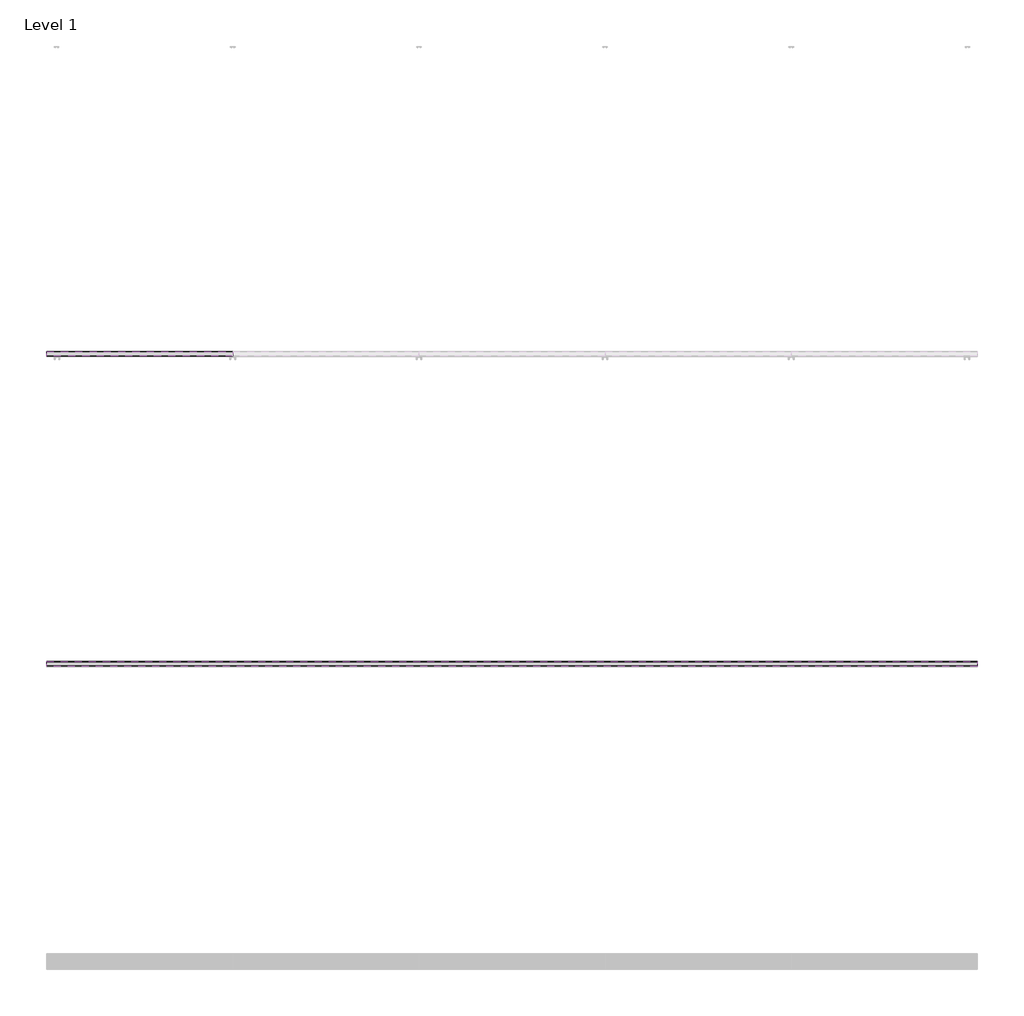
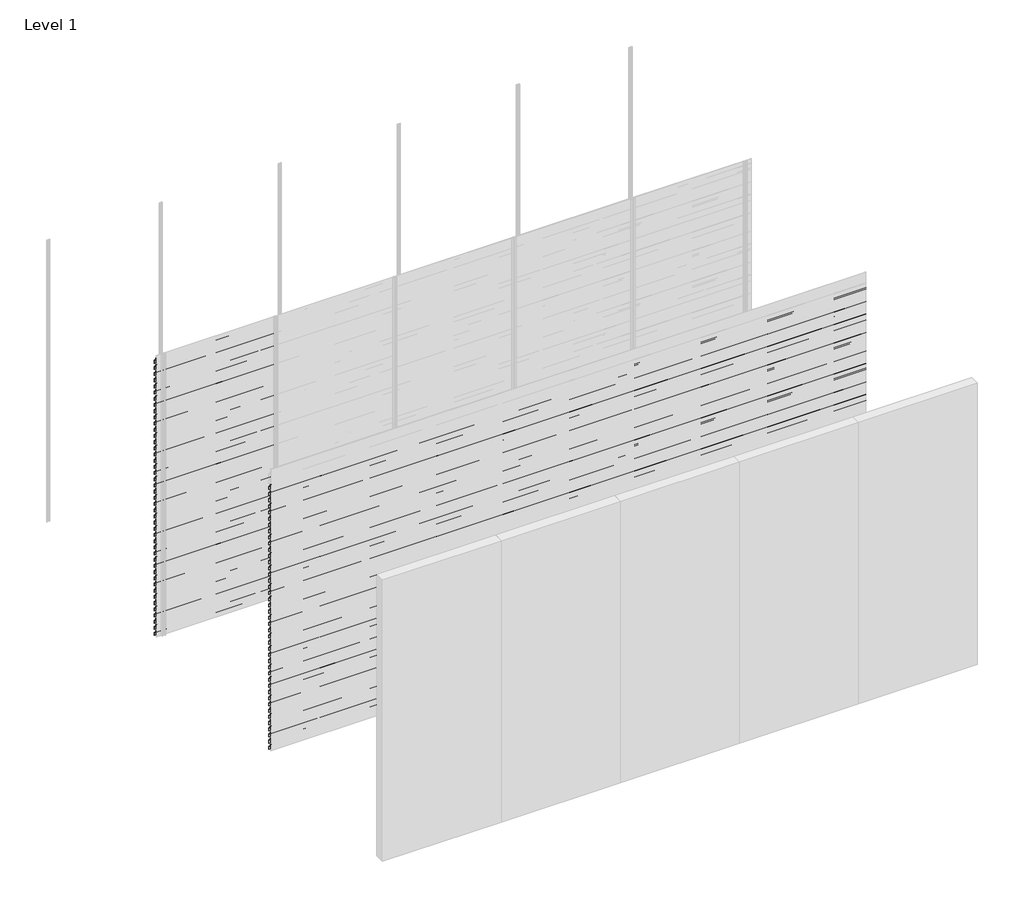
# One storey, part 28 of 33: 88 proxies.
"""IFC4 building model written with IfcOpenShell, lengths in millimetres."""

from ifc_helpers import new_model, si_unit, frame, origin, place, context, project, spatial, polyline, outline, extrude, element, save

model = new_model("IFC4")

# Units and contexts
model_context = context("Model", 3, world=origin())
ifc_project = project(units=[si_unit("LENGTHUNIT", "METRE", prefix="MILLI")], contexts=[model_context])

# Site, building, storey
site = spatial("IfcSite", under=ifc_project)
building = spatial("IfcBuilding", under=site)
storey = spatial("IfcBuildingStorey", under=building, Name="Level 1", Elevation=0.0)

# Proxies
placement = place(None, origin())
element("IfcBuildingElementProxy", 1, Name="Wall Sweeps", at=placement, inside=storey, context=model_context, shape_type="SweptSolid", body=[
    extrude(outline(polyline([(-5967.0, 2930.0), (-5967.0, 2897.0), (-5968.25, 2897.7216933), (-5968.25, 2929.2872415), (-5998.0, 2950.0588647), (-5998.0, 2970.0), (-5996.75, 2970.0), (-5996.75, 2950.7716232), (-5967.0, 2930.0)])), frame((0.0, 0.0, 0.0), z_axis=(1.0, 0.0, 0.0), x_axis=(0.0, 1.0, 0.0)), (0.0, 0.0, 1.0), 1200.0),
])
element("IfcBuildingElementProxy", 2, Name="Wall Sweeps", at=placement, inside=storey, context=model_context, shape_type="SweptSolid", body=[
    extrude(outline(polyline([(-5967.0, 2864.0), (-5967.0, 2831.0), (-5968.25, 2831.7216933), (-5968.25, 2863.2872415), (-5998.0, 2884.0588647), (-5998.0, 2904.0), (-5996.75, 2904.0), (-5996.75, 2884.7716232), (-5967.0, 2864.0)])), frame((0.0, 0.0, 0.0), z_axis=(1.0, 0.0, 0.0), x_axis=(0.0, 1.0, 0.0)), (0.0, 0.0, 1.0), 1200.0),
])
element("IfcBuildingElementProxy", 3, Name="Wall Sweeps", at=placement, inside=storey, context=model_context, shape_type="SweptSolid", body=[
    extrude(outline(polyline([(-5967.0, 2798.0), (-5967.0, 2765.0), (-5968.25, 2765.7216933), (-5968.25, 2797.2872415), (-5998.0, 2818.0588647), (-5998.0, 2838.0), (-5996.75, 2838.0), (-5996.75, 2818.7716232), (-5967.0, 2798.0)])), frame((0.0, 0.0, 0.0), z_axis=(1.0, 0.0, 0.0), x_axis=(0.0, 1.0, 0.0)), (0.0, 0.0, 1.0), 1200.0),
])
element("IfcBuildingElementProxy", 4, Name="Wall Sweeps", at=placement, inside=storey, context=model_context, shape_type="SweptSolid", body=[
    extrude(outline(polyline([(-5967.0, 2732.0), (-5967.0, 2699.0), (-5968.25, 2699.7216933), (-5968.25, 2731.2872415), (-5998.0, 2752.0588647), (-5998.0, 2772.0), (-5996.75, 2772.0), (-5996.75, 2752.7716232), (-5967.0, 2732.0)])), frame((0.0, 0.0, 0.0), z_axis=(1.0, 0.0, 0.0), x_axis=(0.0, 1.0, 0.0)), (0.0, 0.0, 1.0), 1200.0),
])
element("IfcBuildingElementProxy", 5, Name="Wall Sweeps", at=placement, inside=storey, context=model_context, shape_type="SweptSolid", body=[
    extrude(outline(polyline([(-5967.0, 2666.0), (-5967.0, 2633.0), (-5968.25, 2633.7216933), (-5968.25, 2665.2872415), (-5998.0, 2686.0588647), (-5998.0, 2706.0), (-5996.75, 2706.0), (-5996.75, 2686.7716232), (-5967.0, 2666.0)])), frame((0.0, 0.0, 0.0), z_axis=(1.0, 0.0, 0.0), x_axis=(0.0, 1.0, 0.0)), (0.0, 0.0, 1.0), 1200.0),
])
element("IfcBuildingElementProxy", 6, Name="Wall Sweeps", at=placement, inside=storey, context=model_context, shape_type="SweptSolid", body=[
    extrude(outline(polyline([(-5967.0, 2600.0), (-5967.0, 2567.0), (-5968.25, 2567.7216933), (-5968.25, 2599.2872415), (-5998.0, 2620.0588647), (-5998.0, 2640.0), (-5996.75, 2640.0), (-5996.75, 2620.7716232), (-5967.0, 2600.0)])), frame((0.0, 0.0, 0.0), z_axis=(1.0, 0.0, 0.0), x_axis=(0.0, 1.0, 0.0)), (0.0, 0.0, 1.0), 1200.0),
])
element("IfcBuildingElementProxy", 7, Name="Wall Sweeps", at=placement, inside=storey, context=model_context, shape_type="SweptSolid", body=[
    extrude(outline(polyline([(-5967.0, 2534.0), (-5967.0, 2501.0), (-5968.25, 2501.7216933), (-5968.25, 2533.2872415), (-5998.0, 2554.0588647), (-5998.0, 2574.0), (-5996.75, 2574.0), (-5996.75, 2554.7716232), (-5967.0, 2534.0)])), frame((0.0, 0.0, 0.0), z_axis=(1.0, 0.0, 0.0), x_axis=(0.0, 1.0, 0.0)), (0.0, 0.0, 1.0), 1200.0),
])
element("IfcBuildingElementProxy", 8, Name="Wall Sweeps", at=placement, inside=storey, context=model_context, shape_type="SweptSolid", body=[
    extrude(outline(polyline([(-5967.0, 2468.0), (-5967.0, 2435.0), (-5968.25, 2435.7216933), (-5968.25, 2467.2872415), (-5998.0, 2488.0588647), (-5998.0, 2508.0), (-5996.75, 2508.0), (-5996.75, 2488.7716232), (-5967.0, 2468.0)])), frame((0.0, 0.0, 0.0), z_axis=(1.0, 0.0, 0.0), x_axis=(0.0, 1.0, 0.0)), (0.0, 0.0, 1.0), 1200.0),
])
element("IfcBuildingElementProxy", 9, Name="Wall Sweeps", at=placement, inside=storey, context=model_context, shape_type="SweptSolid", body=[
    extrude(outline(polyline([(-5967.0, 2402.0), (-5967.0, 2369.0), (-5968.25, 2369.7216933), (-5968.25, 2401.2872415), (-5998.0, 2422.0588647), (-5998.0, 2442.0), (-5996.75, 2442.0), (-5996.75, 2422.7716232), (-5967.0, 2402.0)])), frame((0.0, 0.0, 0.0), z_axis=(1.0, 0.0, 0.0), x_axis=(0.0, 1.0, 0.0)), (0.0, 0.0, 1.0), 1200.0),
])
element("IfcBuildingElementProxy", 10, Name="Wall Sweeps", at=placement, inside=storey, context=model_context, shape_type="SweptSolid", body=[
    extrude(outline(polyline([(-5967.0, 2336.0), (-5967.0, 2303.0), (-5968.25, 2303.7216933), (-5968.25, 2335.2872415), (-5998.0, 2356.0588647), (-5998.0, 2376.0), (-5996.75, 2376.0), (-5996.75, 2356.7716232), (-5967.0, 2336.0)])), frame((0.0, 0.0, 0.0), z_axis=(1.0, 0.0, 0.0), x_axis=(0.0, 1.0, 0.0)), (0.0, 0.0, 1.0), 1200.0),
])
element("IfcBuildingElementProxy", 11, Name="Wall Sweeps", at=placement, inside=storey, context=model_context, shape_type="SweptSolid", body=[
    extrude(outline(polyline([(-5967.0, 2270.0), (-5967.0, 2237.0), (-5968.25, 2237.7216933), (-5968.25, 2269.2872415), (-5998.0, 2290.0588647), (-5998.0, 2310.0), (-5996.75, 2310.0), (-5996.75, 2290.7716232), (-5967.0, 2270.0)])), frame((0.0, 0.0, 0.0), z_axis=(1.0, 0.0, 0.0), x_axis=(0.0, 1.0, 0.0)), (0.0, 0.0, 1.0), 1200.0),
])
element("IfcBuildingElementProxy", 12, Name="Wall Sweeps", at=placement, inside=storey, context=model_context, shape_type="SweptSolid", body=[
    extrude(outline(polyline([(-5967.0, 2204.0), (-5967.0, 2171.0), (-5968.25, 2171.7216933), (-5968.25, 2203.2872415), (-5998.0, 2224.0588647), (-5998.0, 2244.0), (-5996.75, 2244.0), (-5996.75, 2224.7716232), (-5967.0, 2204.0)])), frame((0.0, 0.0, 0.0), z_axis=(1.0, 0.0, 0.0), x_axis=(0.0, 1.0, 0.0)), (0.0, 0.0, 1.0), 1200.0),
])
element("IfcBuildingElementProxy", 13, Name="Wall Sweeps", at=placement, inside=storey, context=model_context, shape_type="SweptSolid", body=[
    extrude(outline(polyline([(-5967.0, 2138.0), (-5967.0, 2105.0), (-5968.25, 2105.7216933), (-5968.25, 2137.2872415), (-5998.0, 2158.0588647), (-5998.0, 2178.0), (-5996.75, 2178.0), (-5996.75, 2158.7716232), (-5967.0, 2138.0)])), frame((0.0, 0.0, 0.0), z_axis=(1.0, 0.0, 0.0), x_axis=(0.0, 1.0, 0.0)), (0.0, 0.0, 1.0), 1200.0),
])
element("IfcBuildingElementProxy", 14, Name="Wall Sweeps", at=placement, inside=storey, context=model_context, shape_type="SweptSolid", body=[
    extrude(outline(polyline([(-5967.0, 2072.0), (-5967.0, 2039.0), (-5968.25, 2039.7216933), (-5968.25, 2071.2872415), (-5998.0, 2092.0588647), (-5998.0, 2112.0), (-5996.75, 2112.0), (-5996.75, 2092.7716232), (-5967.0, 2072.0)])), frame((0.0, 0.0, 0.0), z_axis=(1.0, 0.0, 0.0), x_axis=(0.0, 1.0, 0.0)), (0.0, 0.0, 1.0), 1200.0),
])
element("IfcBuildingElementProxy", 15, Name="Wall Sweeps", at=placement, inside=storey, context=model_context, shape_type="SweptSolid", body=[
    extrude(outline(polyline([(-5967.0, 2006.0), (-5967.0, 1973.0), (-5968.25, 1973.7216933), (-5968.25, 2005.2872415), (-5998.0, 2026.0588647), (-5998.0, 2046.0), (-5996.75, 2046.0), (-5996.75, 2026.7716232), (-5967.0, 2006.0)])), frame((0.0, 0.0, 0.0), z_axis=(1.0, 0.0, 0.0), x_axis=(0.0, 1.0, 0.0)), (0.0, 0.0, 1.0), 1200.0),
])
element("IfcBuildingElementProxy", 16, Name="Wall Sweeps", at=placement, inside=storey, context=model_context, shape_type="SweptSolid", body=[
    extrude(outline(polyline([(-5967.0, 1940.0), (-5967.0, 1907.0), (-5968.25, 1907.7216933), (-5968.25, 1939.2872415), (-5998.0, 1960.0588647), (-5998.0, 1980.0), (-5996.75, 1980.0), (-5996.75, 1960.7716232), (-5967.0, 1940.0)])), frame((0.0, 0.0, 0.0), z_axis=(1.0, 0.0, 0.0), x_axis=(0.0, 1.0, 0.0)), (0.0, 0.0, 1.0), 1200.0),
])
element("IfcBuildingElementProxy", 17, Name="Wall Sweeps", at=placement, inside=storey, context=model_context, shape_type="SweptSolid", body=[
    extrude(outline(polyline([(-5967.0, 1874.0), (-5967.0, 1841.0), (-5968.25, 1841.7216933), (-5968.25, 1873.2872415), (-5998.0, 1894.0588647), (-5998.0, 1914.0), (-5996.75, 1914.0), (-5996.75, 1894.7716232), (-5967.0, 1874.0)])), frame((0.0, 0.0, 0.0), z_axis=(1.0, 0.0, 0.0), x_axis=(0.0, 1.0, 0.0)), (0.0, 0.0, 1.0), 1200.0),
])
element("IfcBuildingElementProxy", 18, Name="Wall Sweeps", at=placement, inside=storey, context=model_context, shape_type="SweptSolid", body=[
    extrude(outline(polyline([(-5967.0, 1808.0), (-5967.0, 1775.0), (-5968.25, 1775.7216933), (-5968.25, 1807.2872415), (-5998.0, 1828.0588647), (-5998.0, 1848.0), (-5996.75, 1848.0), (-5996.75, 1828.7716232), (-5967.0, 1808.0)])), frame((0.0, 0.0, 0.0), z_axis=(1.0, 0.0, 0.0), x_axis=(0.0, 1.0, 0.0)), (0.0, 0.0, 1.0), 1200.0),
])
element("IfcBuildingElementProxy", 19, Name="Wall Sweeps", at=placement, inside=storey, context=model_context, shape_type="SweptSolid", body=[
    extrude(outline(polyline([(-5967.0, 1742.0), (-5967.0, 1709.0), (-5968.25, 1709.7216933), (-5968.25, 1741.2872415), (-5998.0, 1762.0588647), (-5998.0, 1782.0), (-5996.75, 1782.0), (-5996.75, 1762.7716232), (-5967.0, 1742.0)])), frame((0.0, 0.0, 0.0), z_axis=(1.0, 0.0, 0.0), x_axis=(0.0, 1.0, 0.0)), (0.0, 0.0, 1.0), 1200.0),
])
element("IfcBuildingElementProxy", 20, Name="Wall Sweeps", at=placement, inside=storey, context=model_context, shape_type="SweptSolid", body=[
    extrude(outline(polyline([(-5967.0, 1676.0), (-5967.0, 1643.0), (-5968.25, 1643.7216933), (-5968.25, 1675.2872415), (-5998.0, 1696.0588647), (-5998.0, 1716.0), (-5996.75, 1716.0), (-5996.75, 1696.7716232), (-5967.0, 1676.0)])), frame((0.0, 0.0, 0.0), z_axis=(1.0, 0.0, 0.0), x_axis=(0.0, 1.0, 0.0)), (0.0, 0.0, 1.0), 1200.0),
])
element("IfcBuildingElementProxy", 21, Name="Wall Sweeps", at=placement, inside=storey, context=model_context, shape_type="SweptSolid", body=[
    extrude(outline(polyline([(-5967.0, 1610.0), (-5967.0, 1577.0), (-5968.25, 1577.7216933), (-5968.25, 1609.2872415), (-5998.0, 1630.0588647), (-5998.0, 1650.0), (-5996.75, 1650.0), (-5996.75, 1630.7716232), (-5967.0, 1610.0)])), frame((0.0, 0.0, 0.0), z_axis=(1.0, 0.0, 0.0), x_axis=(0.0, 1.0, 0.0)), (0.0, 0.0, 1.0), 1200.0),
])
element("IfcBuildingElementProxy", 22, Name="Wall Sweeps", at=placement, inside=storey, context=model_context, shape_type="SweptSolid", body=[
    extrude(outline(polyline([(-5967.0, 1544.0), (-5967.0, 1511.0), (-5968.25, 1511.7216933), (-5968.25, 1543.2872415), (-5998.0, 1564.0588647), (-5998.0, 1584.0), (-5996.75, 1584.0), (-5996.75, 1564.7716232), (-5967.0, 1544.0)])), frame((0.0, 0.0, 0.0), z_axis=(1.0, 0.0, 0.0), x_axis=(0.0, 1.0, 0.0)), (0.0, 0.0, 1.0), 1200.0),
])
element("IfcBuildingElementProxy", 23, Name="Wall Sweeps", at=placement, inside=storey, context=model_context, shape_type="SweptSolid", body=[
    extrude(outline(polyline([(-5967.0, 1478.0), (-5967.0, 1445.0), (-5968.25, 1445.7216933), (-5968.25, 1477.2872415), (-5998.0, 1498.0588647), (-5998.0, 1518.0), (-5996.75, 1518.0), (-5996.75, 1498.7716232), (-5967.0, 1478.0)])), frame((0.0, 0.0, 0.0), z_axis=(1.0, 0.0, 0.0), x_axis=(0.0, 1.0, 0.0)), (0.0, 0.0, 1.0), 1200.0),
])
element("IfcBuildingElementProxy", 24, Name="Wall Sweeps", at=placement, inside=storey, context=model_context, shape_type="SweptSolid", body=[
    extrude(outline(polyline([(-5967.0, 1412.0), (-5967.0, 1379.0), (-5968.25, 1379.7216933), (-5968.25, 1411.2872415), (-5998.0, 1432.0588647), (-5998.0, 1452.0), (-5996.75, 1452.0), (-5996.75, 1432.7716232), (-5967.0, 1412.0)])), frame((0.0, 0.0, 0.0), z_axis=(1.0, 0.0, 0.0), x_axis=(0.0, 1.0, 0.0)), (0.0, 0.0, 1.0), 1200.0),
])
element("IfcBuildingElementProxy", 25, Name="Wall Sweeps", at=placement, inside=storey, context=model_context, shape_type="SweptSolid", body=[
    extrude(outline(polyline([(-5967.0, 1346.0), (-5967.0, 1313.0), (-5968.25, 1313.7216933), (-5968.25, 1345.2872415), (-5998.0, 1366.0588647), (-5998.0, 1386.0), (-5996.75, 1386.0), (-5996.75, 1366.7716232), (-5967.0, 1346.0)])), frame((0.0, 0.0, 0.0), z_axis=(1.0, 0.0, 0.0), x_axis=(0.0, 1.0, 0.0)), (0.0, 0.0, 1.0), 1200.0),
])
element("IfcBuildingElementProxy", 26, Name="Wall Sweeps", at=placement, inside=storey, context=model_context, shape_type="SweptSolid", body=[
    extrude(outline(polyline([(-5967.0, 1280.0), (-5967.0, 1247.0), (-5968.25, 1247.7216933), (-5968.25, 1279.2872415), (-5998.0, 1300.0588647), (-5998.0, 1320.0), (-5996.75, 1320.0), (-5996.75, 1300.7716232), (-5967.0, 1280.0)])), frame((0.0, 0.0, 0.0), z_axis=(1.0, 0.0, 0.0), x_axis=(0.0, 1.0, 0.0)), (0.0, 0.0, 1.0), 1200.0),
])
element("IfcBuildingElementProxy", 27, Name="Wall Sweeps", at=placement, inside=storey, context=model_context, shape_type="SweptSolid", body=[
    extrude(outline(polyline([(-5967.0, 1214.0), (-5967.0, 1181.0), (-5968.25, 1181.7216933), (-5968.25, 1213.2872415), (-5998.0, 1234.0588647), (-5998.0, 1254.0), (-5996.75, 1254.0), (-5996.75, 1234.7716232), (-5967.0, 1214.0)])), frame((0.0, 0.0, 0.0), z_axis=(1.0, 0.0, 0.0), x_axis=(0.0, 1.0, 0.0)), (0.0, 0.0, 1.0), 1200.0),
])
element("IfcBuildingElementProxy", 28, Name="Wall Sweeps", at=placement, inside=storey, context=model_context, shape_type="SweptSolid", body=[
    extrude(outline(polyline([(-5967.0, 1148.0), (-5967.0, 1115.0), (-5968.25, 1115.7216933), (-5968.25, 1147.2872415), (-5998.0, 1168.0588647), (-5998.0, 1188.0), (-5996.75, 1188.0), (-5996.75, 1168.7716232), (-5967.0, 1148.0)])), frame((0.0, 0.0, 0.0), z_axis=(1.0, 0.0, 0.0), x_axis=(0.0, 1.0, 0.0)), (0.0, 0.0, 1.0), 1200.0),
])
element("IfcBuildingElementProxy", 29, Name="Wall Sweeps", at=placement, inside=storey, context=model_context, shape_type="SweptSolid", body=[
    extrude(outline(polyline([(-5967.0, 1082.0), (-5967.0, 1049.0), (-5968.25, 1049.7216933), (-5968.25, 1081.2872415), (-5998.0, 1102.0588647), (-5998.0, 1122.0), (-5996.75, 1122.0), (-5996.75, 1102.7716232), (-5967.0, 1082.0)])), frame((0.0, 0.0, 0.0), z_axis=(1.0, 0.0, 0.0), x_axis=(0.0, 1.0, 0.0)), (0.0, 0.0, 1.0), 1200.0),
])
element("IfcBuildingElementProxy", 30, Name="Wall Sweeps", at=placement, inside=storey, context=model_context, shape_type="SweptSolid", body=[
    extrude(outline(polyline([(-5967.0, 1016.0), (-5967.0, 983.0), (-5968.25, 983.7216933), (-5968.25, 1015.2872415), (-5998.0, 1036.0588647), (-5998.0, 1056.0), (-5996.75, 1056.0), (-5996.75, 1036.7716232), (-5967.0, 1016.0)])), frame((0.0, 0.0, 0.0), z_axis=(1.0, 0.0, 0.0), x_axis=(0.0, 1.0, 0.0)), (0.0, 0.0, 1.0), 1200.0),
])
element("IfcBuildingElementProxy", 31, Name="Wall Sweeps", at=placement, inside=storey, context=model_context, shape_type="SweptSolid", body=[
    extrude(outline(polyline([(-5967.0, 950.0), (-5967.0, 917.0), (-5968.25, 917.7216933), (-5968.25, 949.2872415), (-5998.0, 970.0588647), (-5998.0, 990.0), (-5996.75, 990.0), (-5996.75, 970.7716232), (-5967.0, 950.0)])), frame((0.0, 0.0, 0.0), z_axis=(1.0, 0.0, 0.0), x_axis=(0.0, 1.0, 0.0)), (0.0, 0.0, 1.0), 1200.0),
])
element("IfcBuildingElementProxy", 32, Name="Wall Sweeps", at=placement, inside=storey, context=model_context, shape_type="SweptSolid", body=[
    extrude(outline(polyline([(-5967.0, 884.0), (-5967.0, 851.0), (-5968.25, 851.7216933), (-5968.25, 883.2872415), (-5998.0, 904.0588647), (-5998.0, 924.0), (-5996.75, 924.0), (-5996.75, 904.7716232), (-5967.0, 884.0)])), frame((0.0, 0.0, 0.0), z_axis=(1.0, 0.0, 0.0), x_axis=(0.0, 1.0, 0.0)), (0.0, 0.0, 1.0), 1200.0),
])
element("IfcBuildingElementProxy", 33, Name="Wall Sweeps", at=placement, inside=storey, context=model_context, shape_type="SweptSolid", body=[
    extrude(outline(polyline([(-5967.0, 818.0), (-5967.0, 785.0), (-5968.25, 785.7216933), (-5968.25, 817.2872415), (-5998.0, 838.0588647), (-5998.0, 858.0), (-5996.75, 858.0), (-5996.75, 838.7716232), (-5967.0, 818.0)])), frame((0.0, 0.0, 0.0), z_axis=(1.0, 0.0, 0.0), x_axis=(0.0, 1.0, 0.0)), (0.0, 0.0, 1.0), 1200.0),
])
element("IfcBuildingElementProxy", 34, Name="Wall Sweeps", at=placement, inside=storey, context=model_context, shape_type="SweptSolid", body=[
    extrude(outline(polyline([(-5967.0, 752.0), (-5967.0, 719.0), (-5968.25, 719.7216933), (-5968.25, 751.2872415), (-5998.0, 772.0588647), (-5998.0, 792.0), (-5996.75, 792.0), (-5996.75, 772.7716232), (-5967.0, 752.0)])), frame((0.0, 0.0, 0.0), z_axis=(1.0, 0.0, 0.0), x_axis=(0.0, 1.0, 0.0)), (0.0, 0.0, 1.0), 1200.0),
])
element("IfcBuildingElementProxy", 35, Name="Wall Sweeps", at=placement, inside=storey, context=model_context, shape_type="SweptSolid", body=[
    extrude(outline(polyline([(-5967.0, 686.0), (-5967.0, 653.0), (-5968.25, 653.7216933), (-5968.25, 685.2872415), (-5998.0, 706.0588647), (-5998.0, 726.0), (-5996.75, 726.0), (-5996.75, 706.7716232), (-5967.0, 686.0)])), frame((0.0, 0.0, 0.0), z_axis=(1.0, 0.0, 0.0), x_axis=(0.0, 1.0, 0.0)), (0.0, 0.0, 1.0), 1200.0),
])
element("IfcBuildingElementProxy", 36, Name="Wall Sweeps", at=placement, inside=storey, context=model_context, shape_type="SweptSolid", body=[
    extrude(outline(polyline([(-5967.0, 620.0), (-5967.0, 587.0), (-5968.25, 587.7216933), (-5968.25, 619.2872415), (-5998.0, 640.0588647), (-5998.0, 660.0), (-5996.75, 660.0), (-5996.75, 640.7716232), (-5967.0, 620.0)])), frame((0.0, 0.0, 0.0), z_axis=(1.0, 0.0, 0.0), x_axis=(0.0, 1.0, 0.0)), (0.0, 0.0, 1.0), 1200.0),
])
element("IfcBuildingElementProxy", 37, Name="Wall Sweeps", at=placement, inside=storey, context=model_context, shape_type="SweptSolid", body=[
    extrude(outline(polyline([(-5967.0, 554.0), (-5967.0, 521.0), (-5968.25, 521.7216933), (-5968.25, 553.2872415), (-5998.0, 574.0588647), (-5998.0, 594.0), (-5996.75, 594.0), (-5996.75, 574.7716232), (-5967.0, 554.0)])), frame((0.0, 0.0, 0.0), z_axis=(1.0, 0.0, 0.0), x_axis=(0.0, 1.0, 0.0)), (0.0, 0.0, 1.0), 1200.0),
])
element("IfcBuildingElementProxy", 38, Name="Wall Sweeps", at=placement, inside=storey, context=model_context, shape_type="SweptSolid", body=[
    extrude(outline(polyline([(-5967.0, 488.0), (-5967.0, 455.0), (-5968.25, 455.7216933), (-5968.25, 487.2872415), (-5998.0, 508.0588647), (-5998.0, 528.0), (-5996.75, 528.0), (-5996.75, 508.7716232), (-5967.0, 488.0)])), frame((0.0, 0.0, 0.0), z_axis=(1.0, 0.0, 0.0), x_axis=(0.0, 1.0, 0.0)), (0.0, 0.0, 1.0), 1200.0),
])
element("IfcBuildingElementProxy", 39, Name="Wall Sweeps", at=placement, inside=storey, context=model_context, shape_type="SweptSolid", body=[
    extrude(outline(polyline([(-5967.0, 422.0), (-5967.0, 389.0), (-5968.25, 389.7216933), (-5968.25, 421.2872415), (-5998.0, 442.0588647), (-5998.0, 462.0), (-5996.75, 462.0), (-5996.75, 442.7716232), (-5967.0, 422.0)])), frame((0.0, 0.0, 0.0), z_axis=(1.0, 0.0, 0.0), x_axis=(0.0, 1.0, 0.0)), (0.0, 0.0, 1.0), 1200.0),
])
element("IfcBuildingElementProxy", 40, Name="Wall Sweeps", at=placement, inside=storey, context=model_context, shape_type="SweptSolid", body=[
    extrude(outline(polyline([(-5967.0, 356.0), (-5967.0, 323.0), (-5968.25, 323.7216933), (-5968.25, 355.2872415), (-5998.0, 376.0588647), (-5998.0, 396.0), (-5996.75, 396.0), (-5996.75, 376.7716232), (-5967.0, 356.0)])), frame((0.0, 0.0, 0.0), z_axis=(1.0, 0.0, 0.0), x_axis=(0.0, 1.0, 0.0)), (0.0, 0.0, 1.0), 1200.0),
])
element("IfcBuildingElementProxy", 41, Name="Wall Sweeps", at=placement, inside=storey, context=model_context, shape_type="SweptSolid", body=[
    extrude(outline(polyline([(-5967.0, 290.0), (-5967.0, 257.0), (-5968.25, 257.7216933), (-5968.25, 289.2872415), (-5998.0, 310.0588647), (-5998.0, 330.0), (-5996.75, 330.0), (-5996.75, 310.7716232), (-5967.0, 290.0)])), frame((0.0, 0.0, 0.0), z_axis=(1.0, 0.0, 0.0), x_axis=(0.0, 1.0, 0.0)), (0.0, 0.0, 1.0), 1200.0),
])
element("IfcBuildingElementProxy", 42, Name="Wall Sweeps", at=placement, inside=storey, context=model_context, shape_type="SweptSolid", body=[
    extrude(outline(polyline([(-5967.0, 224.0), (-5967.0, 191.0), (-5968.25, 191.7216933), (-5968.25, 223.2872415), (-5998.0, 244.0588647), (-5998.0, 264.0), (-5996.75, 264.0), (-5996.75, 244.7716232), (-5967.0, 224.0)])), frame((0.0, 0.0, 0.0), z_axis=(1.0, 0.0, 0.0), x_axis=(0.0, 1.0, 0.0)), (0.0, 0.0, 1.0), 1200.0),
])
element("IfcBuildingElementProxy", 43, Name="Wall Sweeps", at=placement, inside=storey, context=model_context, shape_type="SweptSolid", body=[
    extrude(outline(polyline([(-5967.0, 158.0), (-5967.0, 125.0), (-5968.25, 125.7216933), (-5968.25, 157.2872415), (-5998.0, 178.0588647), (-5998.0, 198.0), (-5996.75, 198.0), (-5996.75, 178.7716232), (-5967.0, 158.0)])), frame((0.0, 0.0, 0.0), z_axis=(1.0, 0.0, 0.0), x_axis=(0.0, 1.0, 0.0)), (0.0, 0.0, 1.0), 1200.0),
])
element("IfcBuildingElementProxy", 44, Name="Wall Sweeps", at=placement, inside=storey, context=model_context, shape_type="SweptSolid", body=[
    extrude(outline(polyline([(-5967.0, 92.0), (-5967.0, 59.0), (-5968.25, 59.7216933), (-5968.25, 91.2872415), (-5998.0, 112.0588647), (-5998.0, 132.0), (-5996.75, 132.0), (-5996.75, 112.7716232), (-5967.0, 92.0)])), frame((0.0, 0.0, 0.0), z_axis=(1.0, 0.0, 0.0), x_axis=(0.0, 1.0, 0.0)), (0.0, 0.0, 1.0), 1200.0),
])
element("IfcBuildingElementProxy", 45, Name="Wall Sweeps", at=placement, inside=storey, context=model_context, shape_type="SweptSolid", body=[
    extrude(outline(polyline([(-5967.0, 26.0), (-5967.0, -7.0), (-5968.25, -6.2783067), (-5968.25, 25.2872415), (-5998.0, 46.0588647), (-5998.0, 66.0), (-5996.75, 66.0), (-5996.75, 46.7716232), (-5967.0, 26.0)])), frame((0.0, 0.0, 0.0), z_axis=(1.0, 0.0, 0.0), x_axis=(0.0, 1.0, 0.0)), (0.0, 0.0, 1.0), 1200.0),
])
element("IfcBuildingElementProxy", 46, Name="Wall Sweeps", at=placement, inside=storey, context=model_context, shape_type="SweptSolid", body=[
    extrude(outline(polyline([(-7967.0, 2798.0), (-7967.0, 2765.0), (-7968.25, 2765.7216933), (-7968.25, 2797.2872415), (-7998.0, 2818.0588647), (-7998.0, 2838.0), (-7996.75, 2838.0), (-7996.75, 2818.7716232), (-7967.0, 2798.0)])), frame((0.0, 0.0, 0.0), z_axis=(1.0, 0.0, 0.0), x_axis=(0.0, 1.0, 0.0)), (0.0, 0.0, 1.0), 6000.0),
])
element("IfcBuildingElementProxy", 47, Name="Wall Sweeps", at=placement, inside=storey, context=model_context, shape_type="SweptSolid", body=[
    extrude(outline(polyline([(-7967.0, 2732.0), (-7967.0, 2699.0), (-7968.25, 2699.7216933), (-7968.25, 2731.2872415), (-7998.0, 2752.0588647), (-7998.0, 2772.0), (-7996.75, 2772.0), (-7996.75, 2752.7716232), (-7967.0, 2732.0)])), frame((0.0, 0.0, 0.0), z_axis=(1.0, 0.0, 0.0), x_axis=(0.0, 1.0, 0.0)), (0.0, 0.0, 1.0), 6000.0),
])
element("IfcBuildingElementProxy", 48, Name="Wall Sweeps", at=placement, inside=storey, context=model_context, shape_type="SweptSolid", body=[
    extrude(outline(polyline([(-7967.0, 2666.0), (-7967.0, 2633.0), (-7968.25, 2633.7216933), (-7968.25, 2665.2872415), (-7998.0, 2686.0588647), (-7998.0, 2706.0), (-7996.75, 2706.0), (-7996.75, 2686.7716232), (-7967.0, 2666.0)])), frame((0.0, 0.0, 0.0), z_axis=(1.0, 0.0, 0.0), x_axis=(0.0, 1.0, 0.0)), (0.0, 0.0, 1.0), 6000.0),
])
element("IfcBuildingElementProxy", 49, Name="Wall Sweeps", at=placement, inside=storey, context=model_context, shape_type="SweptSolid", body=[
    extrude(outline(polyline([(-7967.0, 2600.0), (-7967.0, 2567.0), (-7968.25, 2567.7216933), (-7968.25, 2599.2872415), (-7998.0, 2620.0588647), (-7998.0, 2640.0), (-7996.75, 2640.0), (-7996.75, 2620.7716232), (-7967.0, 2600.0)])), frame((0.0, 0.0, 0.0), z_axis=(1.0, 0.0, 0.0), x_axis=(0.0, 1.0, 0.0)), (0.0, 0.0, 1.0), 6000.0),
])
element("IfcBuildingElementProxy", 50, Name="Wall Sweeps", at=placement, inside=storey, context=model_context, shape_type="SweptSolid", body=[
    extrude(outline(polyline([(-7967.0, 2534.0), (-7967.0, 2501.0), (-7968.25, 2501.7216933), (-7968.25, 2533.2872415), (-7998.0, 2554.0588647), (-7998.0, 2574.0), (-7996.75, 2574.0), (-7996.75, 2554.7716232), (-7967.0, 2534.0)])), frame((0.0, 0.0, 0.0), z_axis=(1.0, 0.0, 0.0), x_axis=(0.0, 1.0, 0.0)), (0.0, 0.0, 1.0), 6000.0),
])
element("IfcBuildingElementProxy", 51, Name="Wall Sweeps", at=placement, inside=storey, context=model_context, shape_type="SweptSolid", body=[
    extrude(outline(polyline([(-7967.0, 2468.0), (-7967.0, 2435.0), (-7968.25, 2435.7216933), (-7968.25, 2467.2872415), (-7998.0, 2488.0588647), (-7998.0, 2508.0), (-7996.75, 2508.0), (-7996.75, 2488.7716232), (-7967.0, 2468.0)])), frame((0.0, 0.0, 0.0), z_axis=(1.0, 0.0, 0.0), x_axis=(0.0, 1.0, 0.0)), (0.0, 0.0, 1.0), 6000.0),
])
element("IfcBuildingElementProxy", 52, Name="Wall Sweeps", at=placement, inside=storey, context=model_context, shape_type="SweptSolid", body=[
    extrude(outline(polyline([(-7967.0, 2402.0), (-7967.0, 2369.0), (-7968.25, 2369.7216933), (-7968.25, 2401.2872415), (-7998.0, 2422.0588647), (-7998.0, 2442.0), (-7996.75, 2442.0), (-7996.75, 2422.7716232), (-7967.0, 2402.0)])), frame((0.0, 0.0, 0.0), z_axis=(1.0, 0.0, 0.0), x_axis=(0.0, 1.0, 0.0)), (0.0, 0.0, 1.0), 6000.0),
])
element("IfcBuildingElementProxy", 53, Name="Wall Sweeps", at=placement, inside=storey, context=model_context, shape_type="SweptSolid", body=[
    extrude(outline(polyline([(-7967.0, 2336.0), (-7967.0, 2303.0), (-7968.25, 2303.7216933), (-7968.25, 2335.2872415), (-7998.0, 2356.0588647), (-7998.0, 2376.0), (-7996.75, 2376.0), (-7996.75, 2356.7716232), (-7967.0, 2336.0)])), frame((0.0, 0.0, 0.0), z_axis=(1.0, 0.0, 0.0), x_axis=(0.0, 1.0, 0.0)), (0.0, 0.0, 1.0), 6000.0),
])
element("IfcBuildingElementProxy", 54, Name="Wall Sweeps", at=placement, inside=storey, context=model_context, shape_type="SweptSolid", body=[
    extrude(outline(polyline([(-7967.0, 2270.0), (-7967.0, 2237.0), (-7968.25, 2237.7216933), (-7968.25, 2269.2872415), (-7998.0, 2290.0588647), (-7998.0, 2310.0), (-7996.75, 2310.0), (-7996.75, 2290.7716232), (-7967.0, 2270.0)])), frame((0.0, 0.0, 0.0), z_axis=(1.0, 0.0, 0.0), x_axis=(0.0, 1.0, 0.0)), (0.0, 0.0, 1.0), 6000.0),
])
element("IfcBuildingElementProxy", 55, Name="Wall Sweeps", at=placement, inside=storey, context=model_context, shape_type="SweptSolid", body=[
    extrude(outline(polyline([(-7967.0, 2204.0), (-7967.0, 2171.0), (-7968.25, 2171.7216933), (-7968.25, 2203.2872415), (-7998.0, 2224.0588647), (-7998.0, 2244.0), (-7996.75, 2244.0), (-7996.75, 2224.7716232), (-7967.0, 2204.0)])), frame((0.0, 0.0, 0.0), z_axis=(1.0, 0.0, 0.0), x_axis=(0.0, 1.0, 0.0)), (0.0, 0.0, 1.0), 6000.0),
])
element("IfcBuildingElementProxy", 56, Name="Wall Sweeps", at=placement, inside=storey, context=model_context, shape_type="SweptSolid", body=[
    extrude(outline(polyline([(-7967.0, 2138.0), (-7967.0, 2105.0), (-7968.25, 2105.7216933), (-7968.25, 2137.2872415), (-7998.0, 2158.0588647), (-7998.0, 2178.0), (-7996.75, 2178.0), (-7996.75, 2158.7716232), (-7967.0, 2138.0)])), frame((0.0, 0.0, 0.0), z_axis=(1.0, 0.0, 0.0), x_axis=(0.0, 1.0, 0.0)), (0.0, 0.0, 1.0), 6000.0),
])
element("IfcBuildingElementProxy", 57, Name="Wall Sweeps", at=placement, inside=storey, context=model_context, shape_type="SweptSolid", body=[
    extrude(outline(polyline([(-7967.0, 2072.0), (-7967.0, 2039.0), (-7968.25, 2039.7216933), (-7968.25, 2071.2872415), (-7998.0, 2092.0588647), (-7998.0, 2112.0), (-7996.75, 2112.0), (-7996.75, 2092.7716232), (-7967.0, 2072.0)])), frame((0.0, 0.0, 0.0), z_axis=(1.0, 0.0, 0.0), x_axis=(0.0, 1.0, 0.0)), (0.0, 0.0, 1.0), 6000.0),
])
element("IfcBuildingElementProxy", 58, Name="Wall Sweeps", at=placement, inside=storey, context=model_context, shape_type="SweptSolid", body=[
    extrude(outline(polyline([(-7967.0, 2006.0), (-7967.0, 1973.0), (-7968.25, 1973.7216933), (-7968.25, 2005.2872415), (-7998.0, 2026.0588647), (-7998.0, 2046.0), (-7996.75, 2046.0), (-7996.75, 2026.7716232), (-7967.0, 2006.0)])), frame((0.0, 0.0, 0.0), z_axis=(1.0, 0.0, 0.0), x_axis=(0.0, 1.0, 0.0)), (0.0, 0.0, 1.0), 6000.0),
])
element("IfcBuildingElementProxy", 59, Name="Wall Sweeps", at=placement, inside=storey, context=model_context, shape_type="SweptSolid", body=[
    extrude(outline(polyline([(-7967.0, 1940.0), (-7967.0, 1907.0), (-7968.25, 1907.7216933), (-7968.25, 1939.2872415), (-7998.0, 1960.0588647), (-7998.0, 1980.0), (-7996.75, 1980.0), (-7996.75, 1960.7716232), (-7967.0, 1940.0)])), frame((0.0, 0.0, 0.0), z_axis=(1.0, 0.0, 0.0), x_axis=(0.0, 1.0, 0.0)), (0.0, 0.0, 1.0), 6000.0),
])
element("IfcBuildingElementProxy", 60, Name="Wall Sweeps", at=placement, inside=storey, context=model_context, shape_type="SweptSolid", body=[
    extrude(outline(polyline([(-7967.0, 1874.0), (-7967.0, 1841.0), (-7968.25, 1841.7216933), (-7968.25, 1873.2872415), (-7998.0, 1894.0588647), (-7998.0, 1914.0), (-7996.75, 1914.0), (-7996.75, 1894.7716232), (-7967.0, 1874.0)])), frame((0.0, 0.0, 0.0), z_axis=(1.0, 0.0, 0.0), x_axis=(0.0, 1.0, 0.0)), (0.0, 0.0, 1.0), 6000.0),
])
element("IfcBuildingElementProxy", 61, Name="Wall Sweeps", at=placement, inside=storey, context=model_context, shape_type="SweptSolid", body=[
    extrude(outline(polyline([(-7967.0, 1808.0), (-7967.0, 1775.0), (-7968.25, 1775.7216933), (-7968.25, 1807.2872415), (-7998.0, 1828.0588647), (-7998.0, 1848.0), (-7996.75, 1848.0), (-7996.75, 1828.7716232), (-7967.0, 1808.0)])), frame((0.0, 0.0, 0.0), z_axis=(1.0, 0.0, 0.0), x_axis=(0.0, 1.0, 0.0)), (0.0, 0.0, 1.0), 6000.0),
])
element("IfcBuildingElementProxy", 62, Name="Wall Sweeps", at=placement, inside=storey, context=model_context, shape_type="SweptSolid", body=[
    extrude(outline(polyline([(-7967.0, 1742.0), (-7967.0, 1709.0), (-7968.25, 1709.7216933), (-7968.25, 1741.2872415), (-7998.0, 1762.0588647), (-7998.0, 1782.0), (-7996.75, 1782.0), (-7996.75, 1762.7716232), (-7967.0, 1742.0)])), frame((0.0, 0.0, 0.0), z_axis=(1.0, 0.0, 0.0), x_axis=(0.0, 1.0, 0.0)), (0.0, 0.0, 1.0), 6000.0),
])
element("IfcBuildingElementProxy", 63, Name="Wall Sweeps", at=placement, inside=storey, context=model_context, shape_type="SweptSolid", body=[
    extrude(outline(polyline([(-7967.0, 1676.0), (-7967.0, 1643.0), (-7968.25, 1643.7216933), (-7968.25, 1675.2872415), (-7998.0, 1696.0588647), (-7998.0, 1716.0), (-7996.75, 1716.0), (-7996.75, 1696.7716232), (-7967.0, 1676.0)])), frame((0.0, 0.0, 0.0), z_axis=(1.0, 0.0, 0.0), x_axis=(0.0, 1.0, 0.0)), (0.0, 0.0, 1.0), 6000.0),
])
element("IfcBuildingElementProxy", 64, Name="Wall Sweeps", at=placement, inside=storey, context=model_context, shape_type="SweptSolid", body=[
    extrude(outline(polyline([(-7967.0, 1610.0), (-7967.0, 1577.0), (-7968.25, 1577.7216933), (-7968.25, 1609.2872415), (-7998.0, 1630.0588647), (-7998.0, 1650.0), (-7996.75, 1650.0), (-7996.75, 1630.7716232), (-7967.0, 1610.0)])), frame((0.0, 0.0, 0.0), z_axis=(1.0, 0.0, 0.0), x_axis=(0.0, 1.0, 0.0)), (0.0, 0.0, 1.0), 6000.0),
])
element("IfcBuildingElementProxy", 65, Name="Wall Sweeps", at=placement, inside=storey, context=model_context, shape_type="SweptSolid", body=[
    extrude(outline(polyline([(-7967.0, 1544.0), (-7967.0, 1511.0), (-7968.25, 1511.7216933), (-7968.25, 1543.2872415), (-7998.0, 1564.0588647), (-7998.0, 1584.0), (-7996.75, 1584.0), (-7996.75, 1564.7716232), (-7967.0, 1544.0)])), frame((0.0, 0.0, 0.0), z_axis=(1.0, 0.0, 0.0), x_axis=(0.0, 1.0, 0.0)), (0.0, 0.0, 1.0), 6000.0),
])
element("IfcBuildingElementProxy", 66, Name="Wall Sweeps", at=placement, inside=storey, context=model_context, shape_type="SweptSolid", body=[
    extrude(outline(polyline([(-7967.0, 1478.0), (-7967.0, 1445.0), (-7968.25, 1445.7216933), (-7968.25, 1477.2872415), (-7998.0, 1498.0588647), (-7998.0, 1518.0), (-7996.75, 1518.0), (-7996.75, 1498.7716232), (-7967.0, 1478.0)])), frame((0.0, 0.0, 0.0), z_axis=(1.0, 0.0, 0.0), x_axis=(0.0, 1.0, 0.0)), (0.0, 0.0, 1.0), 6000.0),
])
element("IfcBuildingElementProxy", 67, Name="Wall Sweeps", at=placement, inside=storey, context=model_context, shape_type="SweptSolid", body=[
    extrude(outline(polyline([(-7967.0, 1412.0), (-7967.0, 1379.0), (-7968.25, 1379.7216933), (-7968.25, 1411.2872415), (-7998.0, 1432.0588647), (-7998.0, 1452.0), (-7996.75, 1452.0), (-7996.75, 1432.7716232), (-7967.0, 1412.0)])), frame((0.0, 0.0, 0.0), z_axis=(1.0, 0.0, 0.0), x_axis=(0.0, 1.0, 0.0)), (0.0, 0.0, 1.0), 6000.0),
])
element("IfcBuildingElementProxy", 68, Name="Wall Sweeps", at=placement, inside=storey, context=model_context, shape_type="SweptSolid", body=[
    extrude(outline(polyline([(-7967.0, 1346.0), (-7967.0, 1313.0), (-7968.25, 1313.7216933), (-7968.25, 1345.2872415), (-7998.0, 1366.0588647), (-7998.0, 1386.0), (-7996.75, 1386.0), (-7996.75, 1366.7716232), (-7967.0, 1346.0)])), frame((0.0, 0.0, 0.0), z_axis=(1.0, 0.0, 0.0), x_axis=(0.0, 1.0, 0.0)), (0.0, 0.0, 1.0), 6000.0),
])
element("IfcBuildingElementProxy", 69, Name="Wall Sweeps", at=placement, inside=storey, context=model_context, shape_type="SweptSolid", body=[
    extrude(outline(polyline([(-7967.0, 1280.0), (-7967.0, 1247.0), (-7968.25, 1247.7216933), (-7968.25, 1279.2872415), (-7998.0, 1300.0588647), (-7998.0, 1320.0), (-7996.75, 1320.0), (-7996.75, 1300.7716232), (-7967.0, 1280.0)])), frame((0.0, 0.0, 0.0), z_axis=(1.0, 0.0, 0.0), x_axis=(0.0, 1.0, 0.0)), (0.0, 0.0, 1.0), 6000.0),
])
element("IfcBuildingElementProxy", 70, Name="Wall Sweeps", at=placement, inside=storey, context=model_context, shape_type="SweptSolid", body=[
    extrude(outline(polyline([(-7967.0, 1214.0), (-7967.0, 1181.0), (-7968.25, 1181.7216933), (-7968.25, 1213.2872415), (-7998.0, 1234.0588647), (-7998.0, 1254.0), (-7996.75, 1254.0), (-7996.75, 1234.7716232), (-7967.0, 1214.0)])), frame((0.0, 0.0, 0.0), z_axis=(1.0, 0.0, 0.0), x_axis=(0.0, 1.0, 0.0)), (0.0, 0.0, 1.0), 6000.0),
])
element("IfcBuildingElementProxy", 71, Name="Wall Sweeps", at=placement, inside=storey, context=model_context, shape_type="SweptSolid", body=[
    extrude(outline(polyline([(-7967.0, 1148.0), (-7967.0, 1115.0), (-7968.25, 1115.7216933), (-7968.25, 1147.2872415), (-7998.0, 1168.0588647), (-7998.0, 1188.0), (-7996.75, 1188.0), (-7996.75, 1168.7716232), (-7967.0, 1148.0)])), frame((0.0, 0.0, 0.0), z_axis=(1.0, 0.0, 0.0), x_axis=(0.0, 1.0, 0.0)), (0.0, 0.0, 1.0), 6000.0),
])
element("IfcBuildingElementProxy", 72, Name="Wall Sweeps", at=placement, inside=storey, context=model_context, shape_type="SweptSolid", body=[
    extrude(outline(polyline([(-7967.0, 1082.0), (-7967.0, 1049.0), (-7968.25, 1049.7216933), (-7968.25, 1081.2872415), (-7998.0, 1102.0588647), (-7998.0, 1122.0), (-7996.75, 1122.0), (-7996.75, 1102.7716232), (-7967.0, 1082.0)])), frame((0.0, 0.0, 0.0), z_axis=(1.0, 0.0, 0.0), x_axis=(0.0, 1.0, 0.0)), (0.0, 0.0, 1.0), 6000.0),
])
element("IfcBuildingElementProxy", 73, Name="Wall Sweeps", at=placement, inside=storey, context=model_context, shape_type="SweptSolid", body=[
    extrude(outline(polyline([(-7967.0, 1016.0), (-7967.0, 983.0), (-7968.25, 983.7216933), (-7968.25, 1015.2872415), (-7998.0, 1036.0588647), (-7998.0, 1056.0), (-7996.75, 1056.0), (-7996.75, 1036.7716232), (-7967.0, 1016.0)])), frame((0.0, 0.0, 0.0), z_axis=(1.0, 0.0, 0.0), x_axis=(0.0, 1.0, 0.0)), (0.0, 0.0, 1.0), 6000.0),
])
element("IfcBuildingElementProxy", 74, Name="Wall Sweeps", at=placement, inside=storey, context=model_context, shape_type="SweptSolid", body=[
    extrude(outline(polyline([(-7967.0, 950.0), (-7967.0, 917.0), (-7968.25, 917.7216933), (-7968.25, 949.2872415), (-7998.0, 970.0588647), (-7998.0, 990.0), (-7996.75, 990.0), (-7996.75, 970.7716232), (-7967.0, 950.0)])), frame((0.0, 0.0, 0.0), z_axis=(1.0, 0.0, 0.0), x_axis=(0.0, 1.0, 0.0)), (0.0, 0.0, 1.0), 6000.0),
])
element("IfcBuildingElementProxy", 75, Name="Wall Sweeps", at=placement, inside=storey, context=model_context, shape_type="SweptSolid", body=[
    extrude(outline(polyline([(-7967.0, 884.0), (-7967.0, 851.0), (-7968.25, 851.7216933), (-7968.25, 883.2872415), (-7998.0, 904.0588647), (-7998.0, 924.0), (-7996.75, 924.0), (-7996.75, 904.7716232), (-7967.0, 884.0)])), frame((0.0, 0.0, 0.0), z_axis=(1.0, 0.0, 0.0), x_axis=(0.0, 1.0, 0.0)), (0.0, 0.0, 1.0), 6000.0),
])
element("IfcBuildingElementProxy", 76, Name="Wall Sweeps", at=placement, inside=storey, context=model_context, shape_type="SweptSolid", body=[
    extrude(outline(polyline([(-7967.0, 818.0), (-7967.0, 785.0), (-7968.25, 785.7216933), (-7968.25, 817.2872415), (-7998.0, 838.0588647), (-7998.0, 858.0), (-7996.75, 858.0), (-7996.75, 838.7716232), (-7967.0, 818.0)])), frame((0.0, 0.0, 0.0), z_axis=(1.0, 0.0, 0.0), x_axis=(0.0, 1.0, 0.0)), (0.0, 0.0, 1.0), 6000.0),
])
element("IfcBuildingElementProxy", 77, Name="Wall Sweeps", at=placement, inside=storey, context=model_context, shape_type="SweptSolid", body=[
    extrude(outline(polyline([(-7967.0, 752.0), (-7967.0, 719.0), (-7968.25, 719.7216933), (-7968.25, 751.2872415), (-7998.0, 772.0588647), (-7998.0, 792.0), (-7996.75, 792.0), (-7996.75, 772.7716232), (-7967.0, 752.0)])), frame((0.0, 0.0, 0.0), z_axis=(1.0, 0.0, 0.0), x_axis=(0.0, 1.0, 0.0)), (0.0, 0.0, 1.0), 6000.0),
])
element("IfcBuildingElementProxy", 78, Name="Wall Sweeps", at=placement, inside=storey, context=model_context, shape_type="SweptSolid", body=[
    extrude(outline(polyline([(-7967.0, 686.0), (-7967.0, 653.0), (-7968.25, 653.7216933), (-7968.25, 685.2872415), (-7998.0, 706.0588647), (-7998.0, 726.0), (-7996.75, 726.0), (-7996.75, 706.7716232), (-7967.0, 686.0)])), frame((0.0, 0.0, 0.0), z_axis=(1.0, 0.0, 0.0), x_axis=(0.0, 1.0, 0.0)), (0.0, 0.0, 1.0), 6000.0),
])
element("IfcBuildingElementProxy", 79, Name="Wall Sweeps", at=placement, inside=storey, context=model_context, shape_type="SweptSolid", body=[
    extrude(outline(polyline([(-7967.0, 620.0), (-7967.0, 587.0), (-7968.25, 587.7216933), (-7968.25, 619.2872415), (-7998.0, 640.0588647), (-7998.0, 660.0), (-7996.75, 660.0), (-7996.75, 640.7716232), (-7967.0, 620.0)])), frame((0.0, 0.0, 0.0), z_axis=(1.0, 0.0, 0.0), x_axis=(0.0, 1.0, 0.0)), (0.0, 0.0, 1.0), 6000.0),
])
element("IfcBuildingElementProxy", 80, Name="Wall Sweeps", at=placement, inside=storey, context=model_context, shape_type="SweptSolid", body=[
    extrude(outline(polyline([(-7967.0, 554.0), (-7967.0, 521.0), (-7968.25, 521.7216933), (-7968.25, 553.2872415), (-7998.0, 574.0588647), (-7998.0, 594.0), (-7996.75, 594.0), (-7996.75, 574.7716232), (-7967.0, 554.0)])), frame((0.0, 0.0, 0.0), z_axis=(1.0, 0.0, 0.0), x_axis=(0.0, 1.0, 0.0)), (0.0, 0.0, 1.0), 6000.0),
])
element("IfcBuildingElementProxy", 81, Name="Wall Sweeps", at=placement, inside=storey, context=model_context, shape_type="SweptSolid", body=[
    extrude(outline(polyline([(-7967.0, 488.0), (-7967.0, 455.0), (-7968.25, 455.7216933), (-7968.25, 487.2872415), (-7998.0, 508.0588647), (-7998.0, 528.0), (-7996.75, 528.0), (-7996.75, 508.7716232), (-7967.0, 488.0)])), frame((0.0, 0.0, 0.0), z_axis=(1.0, 0.0, 0.0), x_axis=(0.0, 1.0, 0.0)), (0.0, 0.0, 1.0), 6000.0),
])
element("IfcBuildingElementProxy", 82, Name="Wall Sweeps", at=placement, inside=storey, context=model_context, shape_type="SweptSolid", body=[
    extrude(outline(polyline([(-7967.0, 422.0), (-7967.0, 389.0), (-7968.25, 389.7216933), (-7968.25, 421.2872415), (-7998.0, 442.0588647), (-7998.0, 462.0), (-7996.75, 462.0), (-7996.75, 442.7716232), (-7967.0, 422.0)])), frame((0.0, 0.0, 0.0), z_axis=(1.0, 0.0, 0.0), x_axis=(0.0, 1.0, 0.0)), (0.0, 0.0, 1.0), 6000.0),
])
element("IfcBuildingElementProxy", 83, Name="Wall Sweeps", at=placement, inside=storey, context=model_context, shape_type="SweptSolid", body=[
    extrude(outline(polyline([(-7967.0, 356.0), (-7967.0, 323.0), (-7968.25, 323.7216933), (-7968.25, 355.2872415), (-7998.0, 376.0588647), (-7998.0, 396.0), (-7996.75, 396.0), (-7996.75, 376.7716232), (-7967.0, 356.0)])), frame((0.0, 0.0, 0.0), z_axis=(1.0, 0.0, 0.0), x_axis=(0.0, 1.0, 0.0)), (0.0, 0.0, 1.0), 6000.0),
])
element("IfcBuildingElementProxy", 84, Name="Wall Sweeps", at=placement, inside=storey, context=model_context, shape_type="SweptSolid", body=[
    extrude(outline(polyline([(-7967.0, 290.0), (-7967.0, 257.0), (-7968.25, 257.7216933), (-7968.25, 289.2872415), (-7998.0, 310.0588647), (-7998.0, 330.0), (-7996.75, 330.0), (-7996.75, 310.7716232), (-7967.0, 290.0)])), frame((0.0, 0.0, 0.0), z_axis=(1.0, 0.0, 0.0), x_axis=(0.0, 1.0, 0.0)), (0.0, 0.0, 1.0), 6000.0),
])
element("IfcBuildingElementProxy", 85, Name="Wall Sweeps", at=placement, inside=storey, context=model_context, shape_type="SweptSolid", body=[
    extrude(outline(polyline([(-7967.0, 224.0), (-7967.0, 191.0), (-7968.25, 191.7216933), (-7968.25, 223.2872415), (-7998.0, 244.0588647), (-7998.0, 264.0), (-7996.75, 264.0), (-7996.75, 244.7716232), (-7967.0, 224.0)])), frame((0.0, 0.0, 0.0), z_axis=(1.0, 0.0, 0.0), x_axis=(0.0, 1.0, 0.0)), (0.0, 0.0, 1.0), 6000.0),
])
element("IfcBuildingElementProxy", 86, Name="Wall Sweeps", at=placement, inside=storey, context=model_context, shape_type="SweptSolid", body=[
    extrude(outline(polyline([(-7967.0, 158.0), (-7967.0, 125.0), (-7968.25, 125.7216933), (-7968.25, 157.2872415), (-7998.0, 178.0588647), (-7998.0, 198.0), (-7996.75, 198.0), (-7996.75, 178.7716232), (-7967.0, 158.0)])), frame((0.0, 0.0, 0.0), z_axis=(1.0, 0.0, 0.0), x_axis=(0.0, 1.0, 0.0)), (0.0, 0.0, 1.0), 6000.0),
])
element("IfcBuildingElementProxy", 87, Name="Wall Sweeps", at=placement, inside=storey, context=model_context, shape_type="SweptSolid", body=[
    extrude(outline(polyline([(-7967.0, 92.0), (-7967.0, 59.0), (-7968.25, 59.7216933), (-7968.25, 91.2872415), (-7998.0, 112.0588647), (-7998.0, 132.0), (-7996.75, 132.0), (-7996.75, 112.7716232), (-7967.0, 92.0)])), frame((0.0, 0.0, 0.0), z_axis=(1.0, 0.0, 0.0), x_axis=(0.0, 1.0, 0.0)), (0.0, 0.0, 1.0), 6000.0),
])
element("IfcBuildingElementProxy", 88, Name="Wall Sweeps", at=placement, inside=storey, context=model_context, shape_type="SweptSolid", body=[
    extrude(outline(polyline([(-7967.0, 26.0), (-7967.0, -7.0), (-7968.25, -6.2783067), (-7968.25, 25.2872415), (-7998.0, 46.0588647), (-7998.0, 66.0), (-7996.75, 66.0), (-7996.75, 46.7716232), (-7967.0, 26.0)])), frame((0.0, 0.0, 0.0), z_axis=(1.0, 0.0, 0.0), x_axis=(0.0, 1.0, 0.0)), (0.0, 0.0, 1.0), 6000.0),
])

save(model, "model.ifc")
